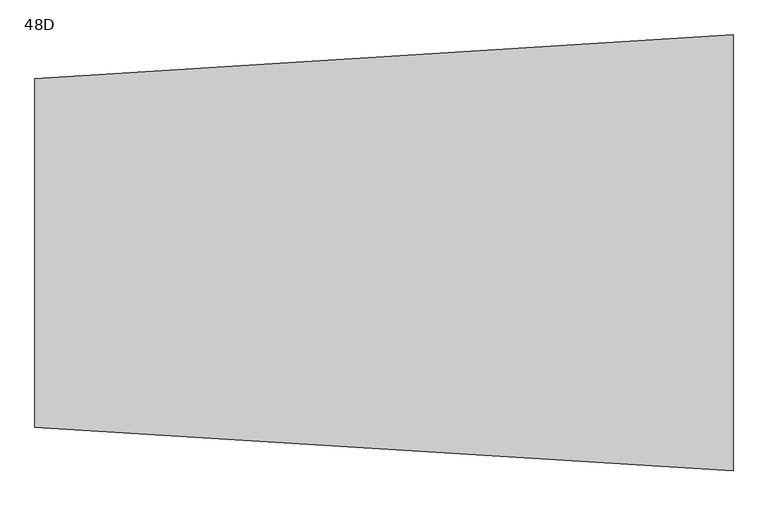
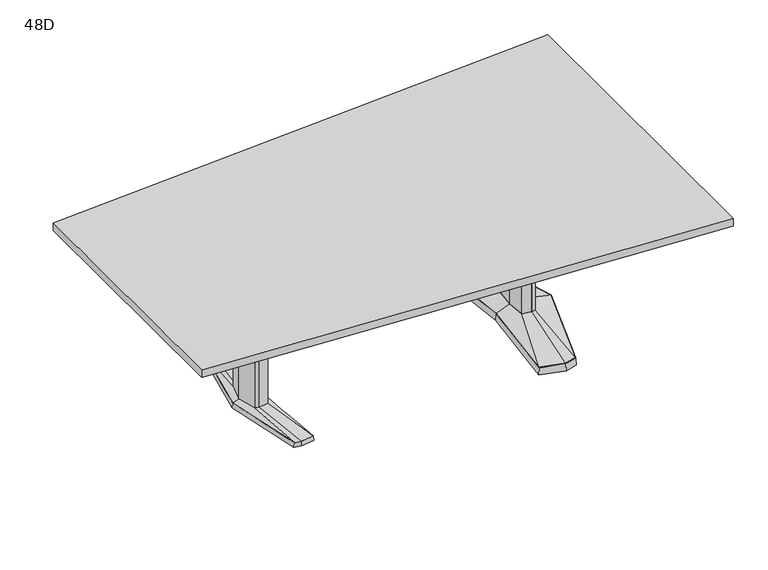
"""IFC4 building model written with IfcOpenShell, lengths in millimetres: furniture geometry, Coalesse_AM_Table_Conference_ETable2_Trapezoid_96in_AluminiumBase : 48D."""

from ifc_helpers import new_model, si_unit, frame, origin, place, context, project, spatial, polyline, outline, extrude, faceted_brep, source, transform, mapped, element, save
from ifc_brep_helpers import plane_surface, spline_surface, advanced_brep


def furniture_48d_15c0475e(model_context):
    return source(origin(), model_context, "Body", "SolidModel", [
        advanced_brep(
        [(-612.4690971, -379.3768856, 25.4), (-646.5982754, -94.605478, 36.5125), (-665.8514743, -89.293702, 36.5125), (-642.1944136, -371.5332654, 25.4), (-549.3800038, -368.5071562, 25.4), (-603.6708501, -87.0529327, 36.5125), (-577.4577254, 0.3970149, 25.4), (-595.5551707, 0.0, 36.5125), (-549.3802502, 368.5172593, 25.4), (-603.6708501, 87.0529327, 36.5125), (-612.4689733, 379.3769183, 25.4), (-646.5982754, 94.605478, 36.5125), (-642.3722958, 371.4863276, 25.4), (-665.8514743, 89.293702, 36.5125), (-719.1039163, 0.0003516, 25.4), (-689.7782751, 0.0, 36.5125), (-575.8656242, 0.3968871, 3.175), (-547.6875, -369.8264415, 3.175), (-612.5400504, -381.0, 3.175), (-643.5497317, -372.8174744, 3.175), (-720.725, 0.0, 3.175), (-643.7280745, 372.7704151, 3.175), (-612.5400504, 381.0, 3.175), (-547.6875, 369.8367279, 3.175), (-647.2166764, 107.6121478, 3.175), (-676.2370973, 99.6056872, 3.175), (-702.9270585, 0.0, 3.175), (-676.2370973, -99.6056872, 3.175), (-647.2166764, -107.6121478, 3.175), (-591.9252951, -97.8843184, 3.175), (-582.7998387, 0.0, 3.175), (-591.9252951, 97.8843184, 3.175), (-611.0474312, 346.9152841, 3.175), (-645.1732026, 337.9105158, 3.175), (-646.2913109, 324.4807859, 3.175), (-610.4788144, 333.9306305, 3.175), (-557.8077418, 324.8641942, 3.175), (-555.3998871, 337.3364985, 3.175), (-611.0474312, -346.9152841, 3.175), (-555.3998871, -337.3364985, 3.175), (-557.8077418, -324.8641942, 3.175), (-610.4788144, -333.9306305, 3.175), (-646.2913109, -324.4807859, 3.175), (-645.1732026, -337.9105158, 3.175), (-647.2166764, 107.6121478, 0.0), (-591.9252951, 97.8843184, 0.0), (-582.7998387, 0.0, 0.0), (-591.9252951, -97.8843184, 0.0), (-647.2166764, -107.6121478, 0.0), (-676.2370973, -99.6056872, 0.0), (-702.9270585, 0.0, 0.0), (-676.2370973, 99.6056872, 0.0), (-611.0474312, 346.9152841, 0.0), (-555.3998871, 337.3364985, 0.0), (-557.8077418, 324.8641942, 0.0), (-610.4788144, 333.9306305, 0.0), (-646.2913109, 324.4807859, 0.0), (-645.1732026, 337.9105158, 0.0), (-611.0474312, -346.9152841, 0.0), (-645.1732026, -337.9105158, 0.0), (-646.2913109, -324.4807859, 0.0), (-610.4788144, -333.9306305, 0.0), (-557.8077418, -324.8641942, 0.0), (-555.3998871, -337.3364985, 0.0), (-665.8514743, 89.293702, 698.5), (-689.7782751, 0.0, 698.5), (-665.8514743, -89.293702, 698.5), (-646.5982754, -94.605478, 698.5), (-603.6708501, -87.0529327, 698.5), (-595.5551707, 0.0, 698.5), (-603.6708501, 87.0529327, 698.5), (-646.5982754, 94.605478, 698.5)],
        [
            (0, 1),
            (1, 2),
            (2, 3),
            (3, 0),
            (0, 4),
            (4, 5),
            (5, 1),
            (4, 6),
            (6, 7),
            (7, 5),
            (6, 8),
            (8, 9),
            (9, 7),
            (8, 10),
            (10, 11),
            (11, 9),
            (10, 12),
            (12, 13),
            (13, 11),
            (12, 14),
            (14, 15),
            (15, 13),
            (2, 15),
            (14, 3),
            (16, 17),
            (17, 18),
            (18, 19),
            (19, 20),
            (20, 21),
            (21, 22),
            (22, 23),
            (23, 16),
            (24, 25),
            (25, 26),
            (26, 27),
            (27, 28),
            (28, 29),
            (29, 30),
            (30, 31),
            (31, 24),
            (32, 33),
            (33, 34),
            (34, 35),
            (35, 36),
            (36, 37),
            (37, 32),
            (38, 39),
            (39, 40),
            (40, 41),
            (41, 42),
            (42, 43),
            (43, 38),
            (23, 8),
            (6, 16),
            (22, 10),
            (21, 12),
            (20, 14),
            (19, 3),
            (18, 0),
            (17, 4),
            (44, 45),
            (45, 46),
            (46, 47),
            (47, 48),
            (48, 49),
            (49, 50),
            (50, 51),
            (51, 44),
            (52, 53),
            (53, 54),
            (54, 55),
            (55, 56),
            (56, 57),
            (57, 52),
            (58, 59),
            (59, 60),
            (60, 61),
            (61, 62),
            (62, 63),
            (63, 58),
            (51, 25),
            (24, 44),
            (50, 26),
            (49, 27),
            (48, 28),
            (47, 29),
            (46, 30),
            (45, 31),
            (57, 33),
            (32, 52),
            (56, 34),
            (55, 35),
            (54, 36),
            (53, 37),
            (63, 39),
            (38, 58),
            (62, 40),
            (61, 41),
            (60, 42),
            (59, 43),
            (64, 65),
            (65, 66),
            (66, 67),
            (67, 68),
            (68, 69),
            (69, 70),
            (70, 71),
            (71, 64),
            (64, 13),
            (15, 65),
            (2, 66),
            (1, 67),
            (5, 68),
            (7, 69),
            (9, 70),
            (11, 71),
        ],
        [
            spline_surface(1, 1, [[(-642.1944136, -371.5332654, 25.4), (-665.8514743, -89.293702, 36.5125)], [(-612.4690971, -379.3768856, 25.4), (-646.5982754, -94.605478, 36.5125)]], [2, 2], [2, 2], [0.0, 1.0], [0.0, 1.0]),
            spline_surface(1, 1, [[(-612.4690971, -379.3768856, 25.4), (-646.5982754, -94.605478, 36.5125)], [(-549.3800038, -368.5071562, 25.4), (-603.6708501, -87.0529327, 36.5125)]], [2, 2], [2, 2], [0.0, 1.0], [0.0, 1.0]),
            spline_surface(1, 1, [[(-549.3800038, -368.5071562, 25.4), (-603.6708501, -87.0529327, 36.5125)], [(-577.4577254, 0.3970149, 25.4), (-595.5551707, 0.0, 36.5125)]], [2, 2], [2, 2], [0.0, 1.0], [0.0, 1.0]),
            spline_surface(1, 1, [[(-577.4577254, 0.3970149, 25.4), (-595.5551707, 0.0, 36.5125)], [(-549.3802502, 368.5172593, 25.4), (-603.6708501, 87.0529327, 36.5125)]], [2, 2], [2, 2], [0.0, 1.0], [0.0, 1.0]),
            spline_surface(1, 1, [[(-549.3802502, 368.5172593, 25.4), (-603.6708501, 87.0529327, 36.5125)], [(-612.4689733, 379.3769183, 25.4), (-646.5982754, 94.605478, 36.5125)]], [2, 2], [2, 2], [0.0, 1.0], [0.0, 1.0]),
            spline_surface(1, 1, [[(-612.4689733, 379.3769183, 25.4), (-646.5982754, 94.605478, 36.5125)], [(-642.3722958, 371.4863276, 25.4), (-665.8514743, 89.293702, 36.5125)]], [2, 2], [2, 2], [0.0, 1.0], [0.0, 1.0]),
            spline_surface(1, 1, [[(-642.3722958, 371.4863276, 25.4), (-665.8514743, 89.293702, 36.5125)], [(-719.1039163, 0.0003516, 25.4), (-689.7782751, 0.0, 36.5125)]], [2, 2], [2, 2], [0.0, 1.0], [0.0, 1.0]),
            spline_surface(1, 1, [[(-719.1039163, 0.0003516, 25.4), (-689.7782751, 0.0, 36.5125)], [(-642.1944136, -371.5332654, 25.4), (-665.8514743, -89.293702, 36.5125)]], [2, 2], [2, 2], [0.0, 1.0], [0.0, 1.0]),
            plane_surface(frame((-613.0404414, 0.0450143, 3.175), z_axis=(0.0, 0.0, -1.0), x_axis=(0.9669048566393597, -0.2551372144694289, 0.0))),
            plane_surface(frame((-561.7765621, 185.1168075, 3.175), z_axis=(0.9945699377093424, -0.07585840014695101, 0.0712470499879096), x_axis=(0.07605167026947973, 0.9971038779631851, 0.0))),
            plane_surface(frame((-580.1137752, 375.418364, 3.175), z_axis=(0.1692071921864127, 0.9830019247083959, 0.07124704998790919), x_axis=(-0.985506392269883, 0.16963829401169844, 0.0))),
            plane_surface(frame((-628.1340624, 376.8852076, 3.175), z_axis=(-0.2544888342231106, 0.9644476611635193, 0.07124704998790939), x_axis=(-0.9669048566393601, -0.25513721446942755, 0.0))),
            plane_surface(frame((-682.2265372, 186.3852076, 3.175), z_axis=(-0.9768383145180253, 0.2017690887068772, 0.07124704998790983), x_axis=(-0.20228315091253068, -0.9793270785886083, 0.0))),
            plane_surface(frame((-682.1373658, -186.4087372, 3.175), z_axis=(-0.9767507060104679, -0.20219276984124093, 0.07124704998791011), x_axis=(0.2027079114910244, -0.9792392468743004, 0.0))),
            plane_surface(frame((-628.044891, -376.9087372, 3.175), z_axis=(-0.2544888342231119, -0.9644476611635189, 0.0712470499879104), x_axis=(0.9669048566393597, -0.2551372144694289, 0.0))),
            plane_surface(frame((-580.1137752, -375.4132207, 3.175), z_axis=(0.16935861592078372, -0.982975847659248, 0.07124704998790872), x_axis=(0.9854802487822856, 0.16979010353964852, 0.0))),
            plane_surface(frame((-561.7765621, -184.7147772, 3.175), z_axis=(0.9945820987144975, 0.07569878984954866, 0.07124704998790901), x_axis=(-0.07589165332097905, 0.9971160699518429, 0.0))),
            plane_surface(frame((-649.9758979, 106.8509046, 0.0), z_axis=(0.0, 0.0, -1.0000000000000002), x_axis=(0.9639855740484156, 0.26595453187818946, 0.0))),
            plane_surface(frame((-647.2166764, 107.6121478, 3.175), z_axis=(-0.26595453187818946, 0.9639855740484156, 0.0), x_axis=(0.0, 0.0, -1.0))),
            plane_surface(frame((-676.2370973, 99.6056872, 3.175), z_axis=(-0.9659241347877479, 0.2588253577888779, 0.0), x_axis=(0.0, 0.0, -1.0))),
            plane_surface(frame((-702.9270585, 0.0, 3.175), z_axis=(-0.9659241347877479, -0.2588253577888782, 0.0), x_axis=(0.0, 0.0, -1.0))),
            plane_surface(frame((-676.2370973, -99.6056872, 3.175), z_axis=(-0.26595453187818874, -0.9639855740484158, 0.0), x_axis=(0.0, 0.0, -1.0))),
            plane_surface(frame((-647.2166764, -107.6121478, 3.175), z_axis=(0.17327617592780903, -0.9848732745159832, 0.0), x_axis=(0.0, 0.0, -1.0))),
            plane_surface(frame((-591.9252951, -97.8843184, 3.175), z_axis=(0.9956824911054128, -0.0928244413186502, 0.0), x_axis=(0.0, 0.0, -1.0))),
            plane_surface(frame((-582.7998387, 0.0, 3.175), z_axis=(0.9956824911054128, 0.09282444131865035, 0.0), x_axis=(0.0, 0.0, -1.0))),
            plane_surface(frame((-591.9252951, 97.8843184, 3.175), z_axis=(0.17327617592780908, 0.984873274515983, 0.0), x_axis=(0.0, 0.0, -1.0))),
            plane_surface(frame((-611.0474312, 346.9152841, 3.175), z_axis=(-0.25513721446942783, 0.9669048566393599, 0.0), x_axis=(0.0, 0.0, -1.0))),
            plane_surface(frame((-645.1732026, 337.9105158, 3.175), z_axis=(-0.9965521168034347, 0.0829691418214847, 0.0), x_axis=(0.0, 0.0, -1.0))),
            plane_surface(frame((-646.2913109, 324.4807859, 3.175), z_axis=(0.25513721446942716, -0.9669048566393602, 0.0), x_axis=(0.0, 0.0, -1.0))),
            plane_surface(frame((-610.4788144, 333.9306305, 3.175), z_axis=(-0.16963829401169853, -0.985506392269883, 0.0), x_axis=(0.0, 0.0, -1.0))),
            plane_surface(frame((-557.8077418, 324.8641942, 3.175), z_axis=(0.9818699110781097, -0.18955600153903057, 0.0), x_axis=(0.0, 0.0, -1.0))),
            plane_surface(frame((-555.3998871, 337.3364985, 3.175), z_axis=(0.16963829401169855, 0.9855063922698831, 0.0), x_axis=(0.0, 0.0, -1.0))),
            plane_surface(frame((-611.0474312, -346.9152841, 3.175), z_axis=(0.1696382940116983, -0.9855063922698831, 0.0), x_axis=(0.0, 0.0, -1.0))),
            plane_surface(frame((-555.3998871, -337.3364985, 3.175), z_axis=(0.9818699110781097, 0.18955600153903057, 0.0), x_axis=(0.0, 0.0, -1.0))),
            plane_surface(frame((-557.8077418, -324.8641942, 3.175), z_axis=(-0.16963829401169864, 0.985506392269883, 0.0), x_axis=(0.0, 0.0, -1.0))),
            plane_surface(frame((-610.4788144, -333.9306305, 3.175), z_axis=(0.2551372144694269, 0.9669048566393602, 0.0), x_axis=(0.0, 0.0, -1.0))),
            plane_surface(frame((-646.2913109, -324.4807859, 3.175), z_axis=(-0.9965521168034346, -0.0829691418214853, 0.0), x_axis=(0.0, 0.0, -1.0))),
            plane_surface(frame((-645.1732026, -337.9105158, 3.175), z_axis=(-0.2551372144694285, -0.9669048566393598, 0.0), x_axis=(0.0, 0.0, -1.0))),
            plane_surface(frame((-689.7782751, 0.0, 698.5), z_axis=(0.0, 0.0, 1.0), x_axis=(-0.25882535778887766, -0.965924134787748, 0.0))),
            plane_surface(frame((-665.8514743, 89.293702, 698.5), z_axis=(-0.965924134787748, 0.25882535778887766, 0.0), x_axis=(0.0, 0.0, -1.0))),
            plane_surface(frame((-689.7782751, 0.0, 698.5), z_axis=(-0.965924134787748, -0.2588253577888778, 0.0), x_axis=(0.0, 0.0, -1.0))),
            plane_surface(frame((-665.8514743, -89.293702, 698.5), z_axis=(-0.2659545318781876, -0.963985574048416, 0.0), x_axis=(0.0, 0.0, -1.0))),
            plane_surface(frame((-646.5982754, -94.605478, 698.5), z_axis=(0.1732761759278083, -0.9848732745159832, 0.0), x_axis=(0.0, 0.0, -1.0))),
            plane_surface(frame((-603.6708501, -87.0529327, 698.5), z_axis=(0.9956824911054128, -0.0928244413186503, 0.0), x_axis=(0.0, 0.0, -1.0))),
            plane_surface(frame((-595.5551707, 0.0, 698.5), z_axis=(0.9956824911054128, 0.09282444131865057, 0.0), x_axis=(0.0, 0.0, -1.0))),
            plane_surface(frame((-603.6708501, 87.0529327, 698.5), z_axis=(0.17327617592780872, 0.9848732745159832, 0.0), x_axis=(0.0, 0.0, -1.0))),
            plane_surface(frame((-646.5982754, 94.605478, 698.5), z_axis=(-0.26595453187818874, 0.9639855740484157, 0.0), x_axis=(0.0, 0.0, -1.0))),
        ],
        [
            (0, [[1, 2, 3, 4]]),
            (1, [[-1, 5, 6, 7]]),
            (2, [[-6, 8, 9, 10]]),
            (3, [[-9, 11, 12, 13]]),
            (4, [[-12, 14, 15, 16]]),
            (5, [[-15, 17, 18, 19]]),
            (6, [[-18, 20, 21, 22]]),
            (7, [[-3, 23, -21, 24]]),
            (8, [[25, 26, 27, 28, 29, 30, 31, 32], [33, 34, 35, 36, 37, 38, 39, 40], [41, 42, 43, 44, 45, 46], [47, 48, 49, 50, 51, 52]]),
            (9, [[-32, 53, -11, 54]]),
            (10, [[-31, 55, -14, -53]]),
            (11, [[-30, 56, -17, -55]]),
            (12, [[-29, 57, -20, -56]]),
            (13, [[-28, 58, -24, -57]]),
            (14, [[-27, 59, -4, -58]]),
            (15, [[-26, 60, -5, -59]]),
            (16, [[-25, -54, -8, -60]]),
            (17, [[61, 62, 63, 64, 65, 66, 67, 68]]),
            (17, [[69, 70, 71, 72, 73, 74]]),
            (17, [[75, 76, 77, 78, 79, 80]]),
            (18, [[-68, 81, -33, 82]]),
            (19, [[-67, 83, -34, -81]]),
            (20, [[-66, 84, -35, -83]]),
            (21, [[-65, 85, -36, -84]]),
            (22, [[-64, 86, -37, -85]]),
            (23, [[-63, 87, -38, -86]]),
            (24, [[-62, 88, -39, -87]]),
            (25, [[-61, -82, -40, -88]]),
            (26, [[-74, 89, -41, 90]]),
            (27, [[-73, 91, -42, -89]]),
            (28, [[-72, 92, -43, -91]]),
            (29, [[-71, 93, -44, -92]]),
            (30, [[-70, 94, -45, -93]]),
            (31, [[-69, -90, -46, -94]]),
            (32, [[-80, 95, -47, 96]]),
            (33, [[-79, 97, -48, -95]]),
            (34, [[-78, 98, -49, -97]]),
            (35, [[-77, 99, -50, -98]]),
            (36, [[-76, 100, -51, -99]]),
            (37, [[-75, -96, -52, -100]]),
            (38, [[101, 102, 103, 104, 105, 106, 107, 108]]),
            (39, [[-101, 109, -22, 110]]),
            (40, [[-102, -110, -23, 111]]),
            (41, [[-103, -111, -2, 112]]),
            (42, [[-104, -112, -7, 113]]),
            (43, [[-105, -113, -10, 114]]),
            (44, [[-106, -114, -13, 115]]),
            (45, [[-107, -115, -16, 116]]),
            (46, [[-108, -116, -19, -109]]),
        ],
    ),
        faceted_brep([(601.0306835, 455.5848221, 38.1), (491.4531277, 426.2263816, 38.1), (532.6163717, 0.0, 38.1), (491.4531277, -426.2263816, 38.1), (601.0306835, -455.5848221, 38.1), (657.1570396, -440.5478297, 38.1), (794.4684269, 0.0, 38.1), (657.1570396, 440.5478297, 38.1), (601.0306754, 457.2283104, 3.175), (658.4124472, 441.8549756, 3.175), (796.13125, 0.0, 3.175), (658.4124472, -441.8549756, 3.175), (601.0306754, -457.2283104, 3.175), (489.74375, -427.4118891, 3.175), (531.0214856, 0.0, 3.175), (489.74375, 427.4118891, 3.175), (604.620115, 428.3273875, 3.175), (499.5718228, 402.1057253, 3.175), (507.690518, 377.985069, 3.175), (608.2095466, 401.0699529, 3.175), (658.7691725, 387.524361, 3.175), (657.9631061, 414.0360954, 3.175), (604.620115, -428.3273875, 3.175), (657.9631061, -414.0360954, 3.175), (658.7691725, -387.524361, 3.175), (608.2095466, -401.0699529, 3.175), (507.690518, -377.985069, 3.175), (499.5718228, -402.1057253, 3.175), (731.2153621, 0.0, 3.175), (698.9459611, 120.4193755, 3.175), (650.2987222, 133.471665, 3.175), (570.4180526, 119.4176561, 3.175), (559.2868466, 0.0, 3.175), (570.4180526, -119.4176561, 3.175), (650.2987222, -133.471665, 3.175), (698.9459611, -120.4193755, 3.175), (604.620115, 428.3273875, 0.0), (657.9631061, 414.0360954, 0.0), (658.7691725, 387.524361, 0.0), (608.2095466, 401.0699529, 0.0), (507.690518, 377.985069, 0.0), (499.5718228, 402.1057253, 0.0), (604.620115, -428.3273875, 0.0), (499.5718228, -402.1057253, 0.0), (507.690518, -377.985069, 0.0), (608.2095466, -401.0699529, 0.0), (658.7691725, -387.524361, 0.0), (657.9631061, -414.0360954, 0.0), (731.2153621, 0.0, 0.0), (698.9459611, -120.4193755, 0.0), (650.2987222, -133.471665, 0.0), (570.4180526, -119.4176561, 0.0), (559.2868466, 0.0, 0.0), (570.4180526, 119.4176561, 0.0), (650.2987222, 133.471665, 0.0), (698.9459611, 120.4193755, 0.0)], [[[0, 1, 2, 3, 4, 5, 6, 7]], [[8, 9, 10, 11, 12, 13, 14, 15], [16, 17, 18, 19, 20, 21], [22, 23, 24, 25, 26, 27], [28, 29, 30, 31, 32, 33, 34, 35]], [[7, 9, 8, 0]], [[6, 10, 9, 7]], [[5, 11, 10, 6]], [[4, 12, 11, 5]], [[3, 13, 12, 4]], [[2, 14, 13, 3]], [[1, 15, 14, 2]], [[0, 8, 15, 1]], [[36, 37, 38, 39, 40, 41]], [[42, 43, 44, 45, 46, 47]], [[48, 49, 50, 51, 52, 53, 54, 55]], [[36, 16, 21, 37]], [[37, 21, 20, 38]], [[38, 20, 19, 39]], [[39, 19, 18, 40]], [[40, 18, 17, 41]], [[41, 17, 16, 36]], [[42, 22, 27, 43]], [[43, 27, 26, 44]], [[44, 26, 25, 45]], [[45, 25, 24, 46]], [[46, 24, 23, 47]], [[47, 23, 22, 42]], [[48, 28, 35, 49]], [[49, 35, 34, 50]], [[50, 34, 33, 51]], [[51, 33, 32, 52]], [[52, 32, 31, 53]], [[53, 31, 30, 54]], [[54, 30, 29, 55]], [[55, 29, 28, 48]]]),
        faceted_brep([(691.7710836, 0.0, 698.5), (667.8358546, 89.3188359, 698.5), (650.9824984, 93.8406728, 698.5), (648.5826511, 94.4845635, 698.5), (605.655146, 86.9320037, 698.5), (597.5520056, 0.0, 698.5), (605.655146, -86.9320037, 698.5), (648.5826511, -94.4845635, 698.5), (650.9824984, -93.8406728, 698.5), (667.8358546, -89.3188359, 698.5), (691.7710836, 0.0, 63.5), (667.8358546, -89.3188359, 63.5), (650.9824984, -93.8406728, 63.5), (648.5826511, -94.4845635, 63.5), (605.655146, -86.9320037, 63.5), (597.5520056, 0.0, 63.5), (605.655146, 86.9320037, 63.5), (648.5826511, 94.4845635, 63.5), (650.9824984, 93.8406728, 63.5), (667.8358546, 89.3188359, 63.5)], [[[0, 1, 2, 3, 4, 5, 6, 7, 8, 9]], [[10, 11, 12, 13, 14, 15, 16, 17, 18, 19]], [[9, 11, 10, 0]], [[8, 12, 11, 9]], [[7, 13, 12, 8]], [[6, 14, 13, 7]], [[5, 15, 14, 6]], [[4, 16, 15, 5]], [[3, 17, 16, 4]], [[2, 18, 17, 3]], [[1, 19, 18, 2]], [[0, 10, 19, 1]]]),
        advanced_brep(
        [(648.5826511, 94.4845635, 63.5), (605.655146, 86.9320037, 63.5), (597.5520056, 0.0, 63.5), (605.655146, -86.9320037, 63.5), (648.5826511, -94.4845635, 63.5), (667.8358546, -89.3188359, 63.5), (691.7710836, 0.0, 63.5), (667.8358546, 89.3188359, 63.5), (601.0306835, 455.5848221, 38.1), (657.1570396, 440.5478297, 38.1), (794.4684269, 0.0, 38.1), (657.1570396, -440.5478297, 38.1), (601.0306835, -455.5848221, 38.1), (491.4531277, -426.2263816, 38.1), (532.6163717, 0.0, 38.1), (491.4531277, 426.2263816, 38.1)],
        [
            (0, 1),
            (1, 2),
            (2, 3),
            (3, 4),
            (4, 5),
            (5, 6),
            (6, 7),
            (7, 0),
            (8, 9),
            (9, 10),
            (10, 11),
            (11, 12),
            (12, 13),
            (13, 14),
            (14, 15),
            (15, 8),
            (8, 0),
            (7, 9),
            (6, 10),
            (5, 11),
            (4, 12),
            (3, 13),
            (2, 14),
            (1, 15),
        ],
        [
            plane_surface(frame((641.6837991, 0.0, 63.5), z_axis=(0.0, 0.0, 1.0), x_axis=(-0.25884244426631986, -0.9659195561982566, 0.0))),
            plane_surface(frame((603.2958125, 0.0, 38.1), z_axis=(0.0, 0.0, -1.0), x_axis=(-0.25884244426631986, -0.9659195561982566, 0.0))),
            spline_surface(1, 1, [[(601.0306835, 455.5848221, 38.1), (657.1570396, 440.5478297, 38.1)], [(648.5826511, 94.4845635, 63.5), (667.8358546, 89.3188359, 63.5)]], [2, 2], [2, 2], [0.0, 1.0], [0.0, 1.0]),
            spline_surface(1, 1, [[(657.1570396, 440.5478297, 38.1), (794.4684269, 0.0, 38.1)], [(667.8358546, 89.3188359, 63.5), (691.7710836, 0.0, 63.5)]], [2, 2], [2, 2], [0.0, 1.0], [0.0, 1.0]),
            spline_surface(1, 1, [[(794.4684269, 0.0, 38.1), (657.1570396, -440.5478297, 38.1)], [(691.7710836, 0.0, 63.5), (667.8358546, -89.3188359, 63.5)]], [2, 2], [2, 2], [0.0, 1.0], [0.0, 1.0]),
            spline_surface(1, 1, [[(657.1570396, -440.5478297, 38.1), (601.0306835, -455.5848221, 38.1)], [(667.8358546, -89.3188359, 63.5), (648.5826511, -94.4845635, 63.5)]], [2, 2], [2, 2], [0.0, 1.0], [0.0, 1.0]),
            spline_surface(1, 1, [[(601.0306835, -455.5848221, 38.1), (491.4531277, -426.2263816, 38.1)], [(648.5826511, -94.4845635, 63.5), (605.655146, -86.9320037, 63.5)]], [2, 2], [2, 2], [0.0, 1.0], [0.0, 1.0]),
            spline_surface(1, 1, [[(491.4531277, -426.2263816, 38.1), (532.6163717, 0.0, 38.1)], [(605.655146, -86.9320037, 63.5), (597.5520056, 0.0, 63.5)]], [2, 2], [2, 2], [0.0, 1.0], [0.0, 1.0]),
            spline_surface(1, 1, [[(532.6163717, 0.0, 38.1), (491.4531277, 426.2263816, 38.1)], [(597.5520056, 0.0, 63.5), (605.655146, 86.9320037, 63.5)]], [2, 2], [2, 2], [0.0, 1.0], [0.0, 1.0]),
            spline_surface(1, 1, [[(491.4531277, 426.2263816, 38.1), (601.0306835, 455.5848221, 38.1)], [(605.655146, 86.9320037, 63.5), (648.5826511, 94.4845635, 63.5)]], [2, 2], [2, 2], [0.0, 1.0], [0.0, 1.0]),
        ],
        [
            (0, [[1, 2, 3, 4, 5, 6, 7, 8]]),
            (1, [[9, 10, 11, 12, 13, 14, 15, 16]]),
            (2, [[17, -8, 18, -9]]),
            (3, [[-18, -7, 19, -10]]),
            (4, [[-19, -6, 20, -11]]),
            (5, [[-20, -5, 21, -12]]),
            (6, [[-21, -4, 22, -13]]),
            (7, [[-22, -3, 23, -14]]),
            (8, [[-23, -2, 24, -15]]),
            (9, [[-24, -1, -17, -16]]),
        ],
    ),
        extrude(outline(polyline([(96.8375, 698.5), (103.1875, 698.5), (103.1875, 476.25), (-103.1875, 476.25), (-103.1875, 698.5), (-96.8375, 698.5), (-96.8375, 482.6), (96.8375, 482.6), (96.8375, 698.5)])), frame((-595.5551707, 0.0, 0.0), z_axis=(1.0, 0.0, 0.0), x_axis=(0.0, 1.0, 0.0)), (0.0, 0.0, 1.0), 1193.1071763),
        extrude(outline(polyline([(-1219.2, -609.6), (-1219.2, 609.6), (1219.2, 762.0), (1219.2, -762.0), (-1219.2, -609.6)])), frame((0.0, 0.0, 698.5), z_axis=(0.0, 0.0, 1.0), x_axis=(1.0, 0.0, 0.0)), (0.0, 0.0, 1.0), 38.1),
    ])


if __name__ == "__main__":
    model = new_model("IFC4")
    model_context = context("Model", 3, world=origin())
    ifc_project = project(units=[si_unit("LENGTHUNIT", "METRE", prefix="MILLI")], contexts=[model_context])
    site = spatial("IfcSite", under=ifc_project)
    building = spatial("IfcBuilding", under=site)
    placement = place(None, origin())
    furniture_48d_shape = furniture_48d_15c0475e(model_context)
    element("IfcFurniture", 1, ObjectType="Coalesse_AM_Table_Conference_ETable2_Trapezoid_96in_AluminiumBase : 48D", at=placement, inside=building, context=model_context, shape_type="MappedRepresentation", body=[
        mapped(furniture_48d_shape, transform((0.0, 0.0, 0.0), x_axis=(1.0, 0.0, 0.0), y_axis=(0.0, 1.0, 0.0), z_axis=(0.0, 0.0, 1.0))),
    ])
    save(model, "model.ifc")
